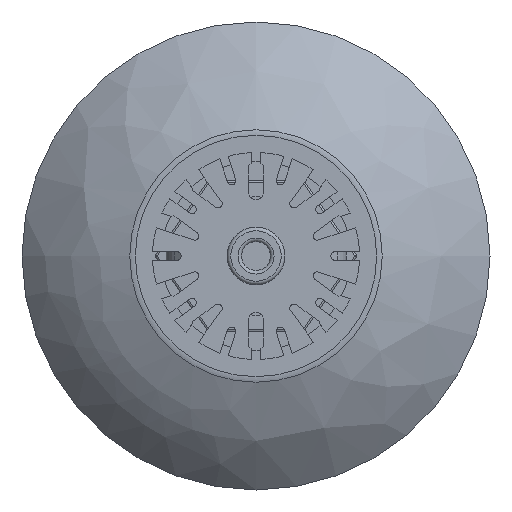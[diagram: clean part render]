
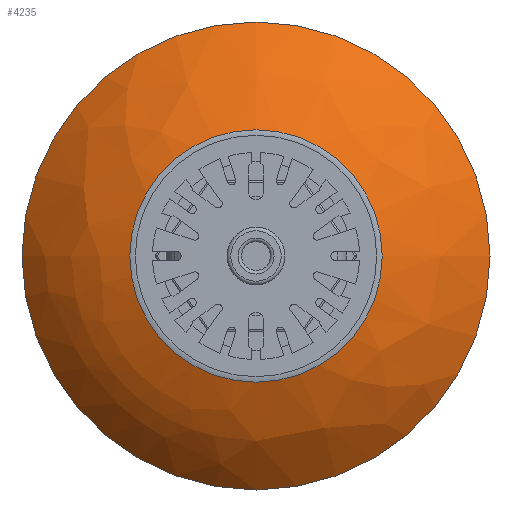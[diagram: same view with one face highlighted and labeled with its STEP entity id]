
A CAD part, front view. The second image highlights one B-rep face of the part: STEP entity #4235.
In plain terms, the highlighted free-form (B-spline) face has degree [2, 2] with [3, 9] control points.
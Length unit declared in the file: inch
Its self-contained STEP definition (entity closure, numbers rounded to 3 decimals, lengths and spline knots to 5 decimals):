
#859=(
BOUNDED_SURFACE()
B_SPLINE_SURFACE(2,2,((#6320,#6321,#6322,#6323,#6324,#6325,#6326,#6327,
#6328),(#6329,#6330,#6331,#6332,#6333,#6334,#6335,#6336,#6337),(#6338,#6339,
#6340,#6341,#6342,#6343,#6344,#6345,#6346)),.UNSPECIFIED.,.F.,.T.,.F.)
B_SPLINE_SURFACE_WITH_KNOTS((3,3),(3,2,2,2,3),(-1.25422,-0.72061),
(-3.14159,-1.5708,0.,1.5708,3.14159),
 .UNSPECIFIED.)
GEOMETRIC_REPRESENTATION_ITEM()
RATIONAL_B_SPLINE_SURFACE(((1.,0.707,1.,0.707,1.,
0.707,1.,0.707,1.),(0.965,0.682,
0.965,0.682,0.965,0.682,
0.965,0.682,0.965),(1.,0.707,
1.,0.707,1.,0.707,1.,0.707,1.)))
REPRESENTATION_ITEM('')
SURFACE()
);
#885=FACE_OUTER_BOUND('',#1119,.T.);
#1119=EDGE_LOOP('',(#2647,#2648,#2649,#2650,#2651,#2652));
#1366=CIRCLE('',#4534,0.87685);
#1367=CIRCLE('',#4535,0.87685);
#1369=CIRCLE('',#4537,1.625);
#1370=CIRCLE('',#4538,1.625);
#1371=CIRCLE('',#4539,1.7);
#1609=VERTEX_POINT('',#6315);
#1610=VERTEX_POINT('',#6316);
#1611=VERTEX_POINT('',#6347);
#1612=VERTEX_POINT('',#6348);
#2015=EDGE_CURVE('',#1609,#1610,#1366,.T.);
#2016=EDGE_CURVE('',#1610,#1609,#1367,.T.);
#2018=EDGE_CURVE('',#1611,#1612,#1369,.T.);
#2019=EDGE_CURVE('',#1612,#1611,#1370,.T.);
#2020=EDGE_CURVE('',#1612,#1610,#1371,.T.);
#2647=ORIENTED_EDGE('',*,*,#2018,.F.);
#2648=ORIENTED_EDGE('',*,*,#2019,.F.);
#2649=ORIENTED_EDGE('',*,*,#2020,.T.);
#2650=ORIENTED_EDGE('',*,*,#2016,.T.);
#2651=ORIENTED_EDGE('',*,*,#2015,.T.);
#2652=ORIENTED_EDGE('',*,*,#2020,.F.);
#4235=ADVANCED_FACE('',(#885),#859,.F.);
#4534=AXIS2_PLACEMENT_3D('',#6317,#5019,#5020);
#4535=AXIS2_PLACEMENT_3D('',#6318,#5021,#5022);
#4537=AXIS2_PLACEMENT_3D('',#6349,#5025,#5026);
#4538=AXIS2_PLACEMENT_3D('',#6350,#5027,#5028);
#4539=AXIS2_PLACEMENT_3D('',#6351,#5029,#5030);
#5019=DIRECTION('center_axis',(0.,1.,0.));
#5020=DIRECTION('ref_axis',(1.,0.,0.));
#5021=DIRECTION('center_axis',(0.,1.,0.));
#5022=DIRECTION('ref_axis',(1.,0.,0.));
#5025=DIRECTION('center_axis',(0.,1.,0.));
#5026=DIRECTION('ref_axis',(1.,0.,0.));
#5027=DIRECTION('center_axis',(0.,1.,0.));
#5028=DIRECTION('ref_axis',(1.,0.,0.));
#5029=DIRECTION('center_axis',(0.,0.,
1.));
#5030=DIRECTION('ref_axis',(-1.,0.,0.));
#6315=CARTESIAN_POINT('',(0.87685,2.05621,0.));
#6316=CARTESIAN_POINT('',(-0.87685,2.05621,0.));
#6317=CARTESIAN_POINT('Origin',(0.,2.05621,0.));
#6318=CARTESIAN_POINT('Origin',(0.,2.05621,0.));
#6320=CARTESIAN_POINT('Ctrl Pts',(-0.87685,2.05621,0.));
#6321=CARTESIAN_POINT('Ctrl Pts',(-0.87685,2.05621,0.87685));
#6322=CARTESIAN_POINT('Ctrl Pts',(0.,2.05621,
0.87685));
#6323=CARTESIAN_POINT('Ctrl Pts',(0.87685,2.05621,0.87685));
#6324=CARTESIAN_POINT('Ctrl Pts',(0.87685,2.05621,0.));
#6325=CARTESIAN_POINT('Ctrl Pts',(0.87685,2.05621,-0.87685));
#6326=CARTESIAN_POINT('Ctrl Pts',(0.,2.05621,
-0.87685));
#6327=CARTESIAN_POINT('Ctrl Pts',(-0.87685,2.05621,-0.87685));
#6328=CARTESIAN_POINT('Ctrl Pts',(-0.87685,2.05621,0.));
#6329=CARTESIAN_POINT('Ctrl Pts',(-1.31841,2.20086,0.));
#6330=CARTESIAN_POINT('Ctrl Pts',(-1.31841,2.20086,1.31841));
#6331=CARTESIAN_POINT('Ctrl Pts',(0.,2.20086,
1.31841));
#6332=CARTESIAN_POINT('Ctrl Pts',(1.31841,2.20086,1.31841));
#6333=CARTESIAN_POINT('Ctrl Pts',(1.31841,2.20086,0.));
#6334=CARTESIAN_POINT('Ctrl Pts',(1.31841,2.20086,-1.31841));
#6335=CARTESIAN_POINT('Ctrl Pts',(0.,2.20086,
-1.31841));
#6336=CARTESIAN_POINT('Ctrl Pts',(-1.31841,2.20086,-1.31841));
#6337=CARTESIAN_POINT('Ctrl Pts',(-1.31841,2.20086,0.));
#6338=CARTESIAN_POINT('Ctrl Pts',(-1.625,2.55,0.));
#6339=CARTESIAN_POINT('Ctrl Pts',(-1.625,2.55,1.625));
#6340=CARTESIAN_POINT('Ctrl Pts',(0.,2.55,1.625));
#6341=CARTESIAN_POINT('Ctrl Pts',(1.625,2.55,1.625));
#6342=CARTESIAN_POINT('Ctrl Pts',(1.625,2.55,0.));
#6343=CARTESIAN_POINT('Ctrl Pts',(1.625,2.55,-1.625));
#6344=CARTESIAN_POINT('Ctrl Pts',(0.,2.55,-1.625));
#6345=CARTESIAN_POINT('Ctrl Pts',(-1.625,2.55,-1.625));
#6346=CARTESIAN_POINT('Ctrl Pts',(-1.625,2.55,0.));
#6347=CARTESIAN_POINT('',(1.625,2.55,0.));
#6348=CARTESIAN_POINT('',(-1.625,2.55,0.));
#6349=CARTESIAN_POINT('Origin',(0.,2.55,0.));
#6350=CARTESIAN_POINT('Origin',(0.,2.55,0.));
#6351=CARTESIAN_POINT('Origin',(-0.34761,3.67173,0.));
